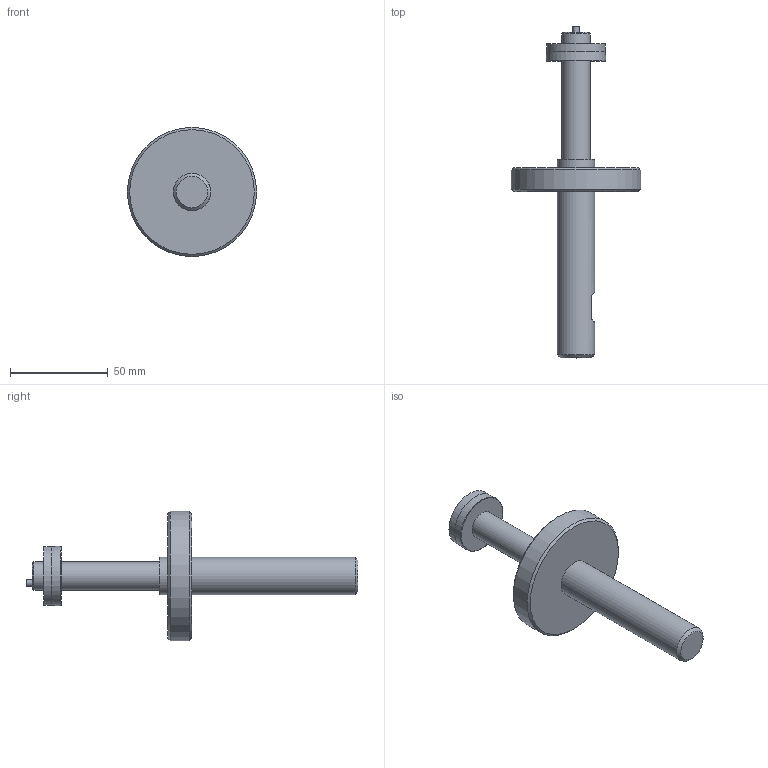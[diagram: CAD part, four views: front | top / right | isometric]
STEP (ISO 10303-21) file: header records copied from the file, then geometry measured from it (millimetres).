
FILE_DESCRIPTION (( 'STEP AP203' ), '1' );
FILE_NAME ('AF56-SIMPLE - AF56-14.50-30.50M.step', '2025-01-22T13:31:38', ( '' ), ( '' ), 'SwSTEP 2.0', 'SolidWorks 2024', '' );
FILE_SCHEMA (( 'CONFIG_CONTROL_DESIGN' ));
Length unit declared in the file: inch
Products named in the file (1): AF56-SIMPLE - AF56-14.50-30.50M
Bounding box: 66.04 x 169.8 x 66.04 mm (x, y, z)
Volume: 82200.5 mm3; surface area: 18886.7 mm2
Topology: 1 solids, 1 shells, 24 faces, 40 edges, 25 vertices
Faces by surface type: plane 11, cylinder 7, cone 5, torus 1
Full cylindrical faces by diameter (mm): 3.175 x1, 14.376 x2, 19.05 x2, 29.994 x1, 66.04 x1
Entity records: 569 total; most frequent: DIRECTION 94, CARTESIAN_POINT 81, ORIENTED_EDGE 52, AXIS2_PLACEMENT_3D 45, EDGE_LOOP 44, FACE_OUTER_BOUND 32, EDGE_CURVE 26, ADVANCED_FACE 24
